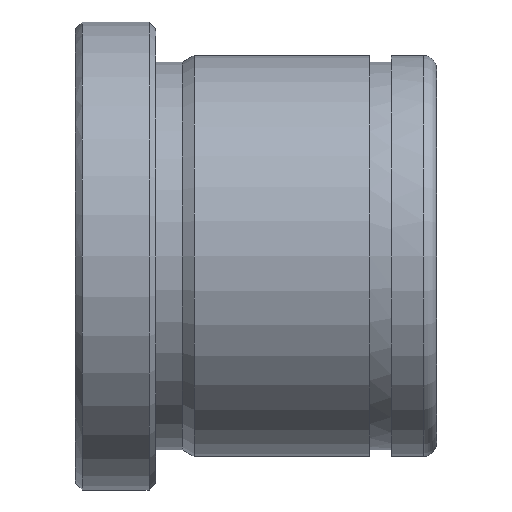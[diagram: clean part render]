
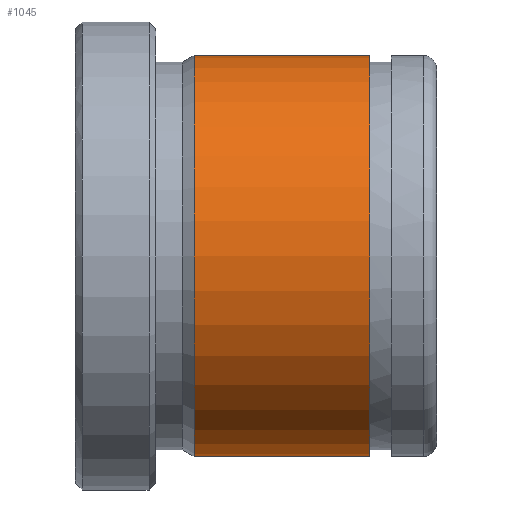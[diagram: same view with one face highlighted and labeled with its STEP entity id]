
A CAD part, front view. The second image highlights one B-rep face of the part: STEP entity #1045.
In plain terms, the highlighted cylindrical face has radius 15 mm (diameter 30 mm), a partial arc.
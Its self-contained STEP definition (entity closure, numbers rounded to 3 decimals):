
#851=CARTESIAN_POINT('Vertex',(8.866,0.,-15.)) ;
#858=CARTESIAN_POINT('Vertex',(8.866,0.,15.)) ;
#887=CARTESIAN_POINT('Axis2P3D Location',(8.866,0.,0.)) ;
#891=CARTESIAN_POINT('Vertex',(8.866,-15.,0.)) ;
#894=CARTESIAN_POINT('Axis2P3D Location',(8.866,0.,0.)) ;
#985=CARTESIAN_POINT('Line Origine',(54.,0.,15.)) ;
#989=CARTESIAN_POINT('Vertex',(22.,0.,15.)) ;
#1003=CARTESIAN_POINT('Vertex',(22.,0.,-15.)) ;
#1006=CARTESIAN_POINT('Line Origine',(54.,0.,-15.)) ;
#1020=CARTESIAN_POINT('Axis2P3D Location',(54.,0.,0.)) ;
#1025=CARTESIAN_POINT('Axis2P3D Location',(22.,0.,0.)) ;
#1029=CARTESIAN_POINT('Vertex',(22.,-15.,0.)) ;
#1032=CARTESIAN_POINT('Axis2P3D Location',(22.,0.,0.)) ;
#888=DIRECTION('Axis2P3D Direction',(1.,0.,-0.)) ;
#895=DIRECTION('Axis2P3D Direction',(1.,0.,-0.)) ;
#986=DIRECTION('Vector Direction',(-1.,0.,0.)) ;
#1007=DIRECTION('Vector Direction',(-1.,0.,0.)) ;
#1021=DIRECTION('Axis2P3D Direction',(-1.,-0.,-0.)) ;
#1022=DIRECTION('Axis2P3D XDirection',(0.,0.,-1.)) ;
#1026=DIRECTION('Axis2P3D Direction',(-1.,-0.,-0.)) ;
#1033=DIRECTION('Axis2P3D Direction',(-1.,-0.,-0.)) ;
#889=AXIS2_PLACEMENT_3D('Circle Axis2P3D',#887,#888,$) ;
#896=AXIS2_PLACEMENT_3D('Circle Axis2P3D',#894,#895,$) ;
#1023=AXIS2_PLACEMENT_3D('Cylinder Axis2P3D',#1020,#1021,#1022) ;
#1027=AXIS2_PLACEMENT_3D('Circle Axis2P3D',#1025,#1026,$) ;
#1034=AXIS2_PLACEMENT_3D('Circle Axis2P3D',#1032,#1033,$) ;
#1038=ORIENTED_EDGE('',*,*,#1010,.T.) ;
#1039=ORIENTED_EDGE('',*,*,#1031,.F.) ;
#1040=ORIENTED_EDGE('',*,*,#1036,.F.) ;
#1041=ORIENTED_EDGE('',*,*,#991,.T.) ;
#1042=ORIENTED_EDGE('',*,*,#898,.T.) ;
#1043=ORIENTED_EDGE('',*,*,#893,.T.) ;
#987=VECTOR('Line Direction',#986,1.) ;
#1008=VECTOR('Line Direction',#1007,1.) ;
#1045=ADVANCED_FACE('553-24X27',(#1044),#1024,.T.) ;
#890=CIRCLE('generated circle',#889,15.) ;
#897=CIRCLE('generated circle',#896,15.) ;
#1028=CIRCLE('generated circle',#1027,15.) ;
#1035=CIRCLE('generated circle',#1034,15.) ;
#1024=CYLINDRICAL_SURFACE('generated cylinder',#1023,15.) ;
#893=EDGE_CURVE('',#892,#852,#890,.T.) ;
#898=EDGE_CURVE('',#859,#892,#897,.T.) ;
#991=EDGE_CURVE('',#990,#859,#988,.T.) ;
#1010=EDGE_CURVE('',#852,#1004,#1009,.F.) ;
#1031=EDGE_CURVE('',#1030,#1004,#1028,.F.) ;
#1036=EDGE_CURVE('',#990,#1030,#1035,.F.) ;
#1037=EDGE_LOOP('',(#1038,#1039,#1040,#1041,#1042,#1043)) ;
#1044=FACE_OUTER_BOUND('',#1037,.T.) ;
#988=LINE('Line',#985,#987) ;
#1009=LINE('Line',#1006,#1008) ;
#852=VERTEX_POINT('',#851) ;
#859=VERTEX_POINT('',#858) ;
#892=VERTEX_POINT('',#891) ;
#990=VERTEX_POINT('',#989) ;
#1004=VERTEX_POINT('',#1003) ;
#1030=VERTEX_POINT('',#1029) ;
